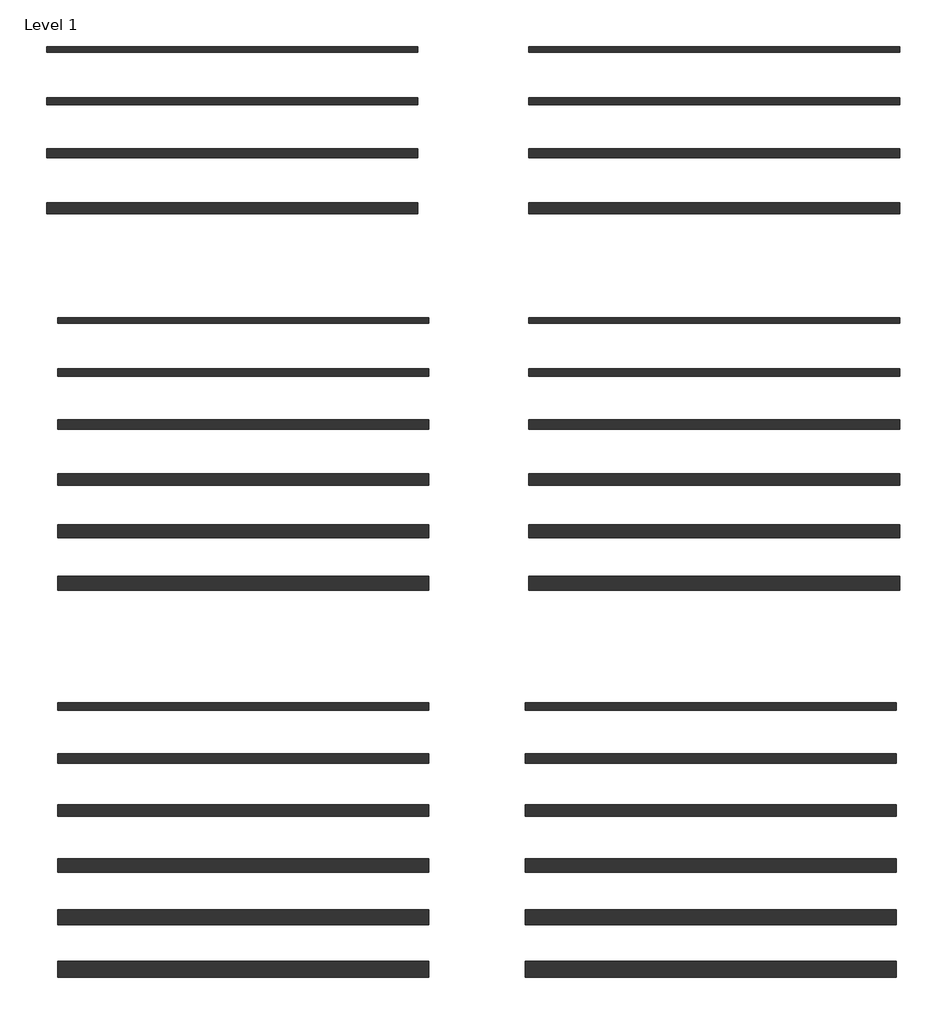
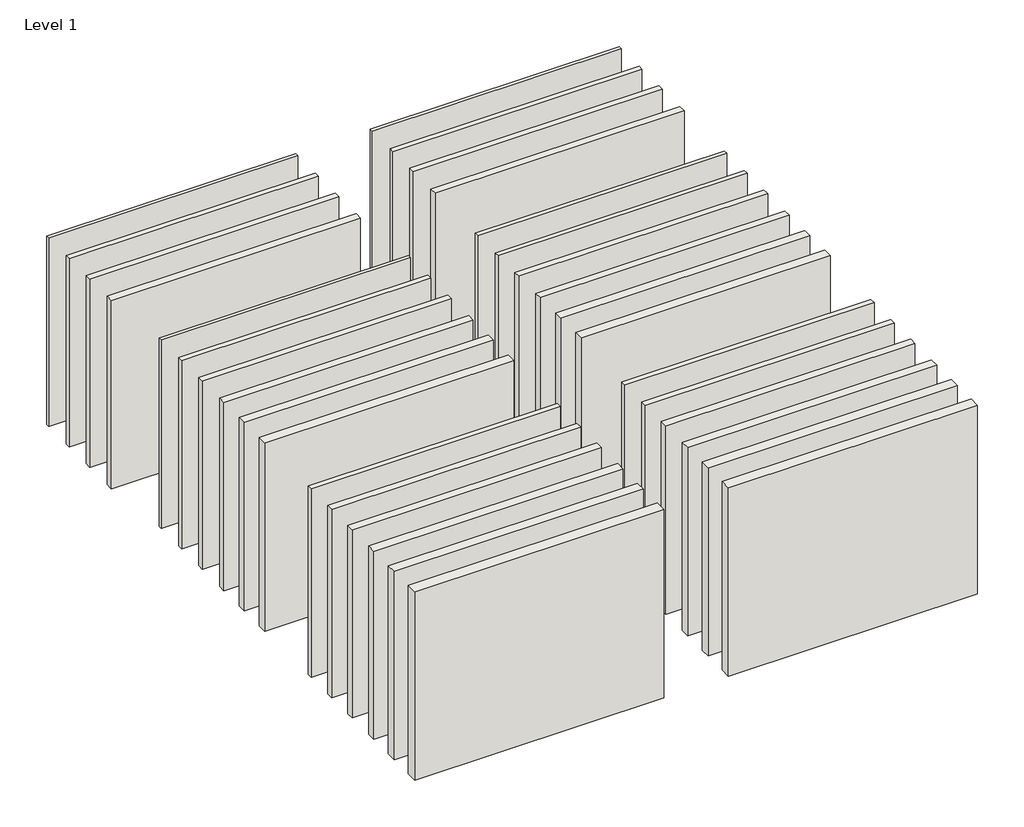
# One storey: 32 walls.
"""IFC4 building model written with IfcOpenShell, lengths in millimetres."""

import ifcopenshell
import ifcopenshell.guid

model = None  # the IFC model being written
_history = None  # IfcOwnerHistory: only IFC2X3 demands one
_inside = {}  # id of a spatial element -> (the spatial element, [elements in it])
_under = {}  # id of a project, library or spatial element -> (it, [spatial elements below it])
_declared = {}  # id of a project -> (the project, [libraries it declares])
_typed = {}  # id of a type object -> (the type object, [elements of that type])
_made_of = {}  # id of a material, layer set ... -> (it, [elements and type objects made of it])


def new_model(schema):
    """Start an empty IFC model of exactly this schema.

    Asked for "IFC4X3", IfcOpenShell would pick the latest addendum, in which some entities
    have other attributes; the version numbers below select the first issue.
    IFC2X3 requires an IfcOwnerHistory on every rooted entity: one is made here for all.
    """
    global model, _history
    if schema == "IFC4X3":
        model = ifcopenshell.file(schema_version=(4, 3, 0, 0))
    else:
        model = ifcopenshell.file(schema=schema)
    _inside.clear()
    _under.clear()
    _declared.clear()
    _typed.clear()
    _made_of.clear()
    _history = None
    if model.schema == "IFC2X3":
        org = make("IfcOrganization", Name="unknown")
        user = make(
            "IfcPersonAndOrganization",
            ThePerson=make("IfcPerson", FamilyName="unknown"),
            TheOrganization=org,
        )
        app = make(
            "IfcApplication",
            ApplicationDeveloper=org,
            Version="unknown",
            ApplicationFullName="unknown",
            ApplicationIdentifier="unknown",
        )
        _history = make(
            "IfcOwnerHistory",
            OwningUser=user,
            OwningApplication=app,
            ChangeAction="ADDED",
            CreationDate=0,
        )
    return model


def make(cls, **values):
    """One entity of the class cls with the attributes given. An attribute that is None is left unset."""
    return model.create_entity(
        cls, **{name: value for name, value in values.items() if value is not None}
    )


def rooted(cls, **values):
    """An entity with a GlobalId (a new one), such as an element, a storey or a relation."""
    return make(cls, GlobalId=ifcopenshell.guid.new(), OwnerHistory=_history, **values)


def si_unit(unit_type, name, prefix=None):
    """IfcSIUnit, for example si_unit("LENGTHUNIT", "METRE", prefix="MILLI")."""
    return make("IfcSIUnit", UnitType=unit_type, Prefix=prefix, Name=name)


def assignment(units):
    """IfcUnitAssignment: the units of a project."""
    return None if units is None else make("IfcUnitAssignment", Units=units)


def point(xyz):
    """IfcCartesianPoint."""
    return None if xyz is None else make("IfcCartesianPoint", Coordinates=xyz)


def direction(xyz):
    """IfcDirection."""
    return None if xyz is None else make("IfcDirection", DirectionRatios=xyz)


def frame(location, z_axis=None, x_axis=None):
    """IfcAxis2Placement3D, a coordinate frame: its origin and axes. An axis left out is left unset."""
    return make(
        "IfcAxis2Placement3D",
        Location=point(location),
        Axis=direction(z_axis),
        RefDirection=direction(x_axis),
    )


def origin():
    """The frame at (0, 0, 0) with its axes left unset."""
    return frame((0.0, 0.0, 0.0))


def origin_with_axes():
    """The frame at (0, 0, 0) with the z axis (0, 0, 1) and the x axis (1, 0, 0) written out."""
    return frame((0.0, 0.0, 0.0), z_axis=(0.0, 0.0, 1.0), x_axis=(1.0, 0.0, 0.0))


def place(relative_to, where):
    """IfcLocalPlacement: puts the frame where relative to a parent placement (None: the world)."""
    return make(
        "IfcLocalPlacement", PlacementRelTo=relative_to, RelativePlacement=where
    )


def context(
    kind, dimensions, precision=None, world=None, true_north=None, identifier=None
):
    """IfcGeometricRepresentationContext, for example the 3D "Model" context."""
    return make(
        "IfcGeometricRepresentationContext",
        ContextIdentifier=identifier,
        ContextType=kind,
        CoordinateSpaceDimension=dimensions,
        Precision=precision,
        WorldCoordinateSystem=world,
        TrueNorth=true_north,
    )


def project(units=None, contexts=None):
    """IfcProject with its units and contexts."""
    return rooted(
        "IfcProject",
        Name="project",
        RepresentationContexts=contexts,
        UnitsInContext=assignment(units),
    )


def spatial(cls, under=None, at=None, **own):
    """A site, building, storey or space (cls), placed at a placement, below another one or the project."""
    s = rooted(cls, ObjectPlacement=at, **own)
    if under is not None:
        _under.setdefault(under.id(), (under, []))[1].append(s)
    return s


def polyline(points):
    """IfcPolyline through the points."""
    return make("IfcPolyline", Points=[point(p) for p in points])


def outline(outer, holes=None, kind="AREA"):
    """IfcArbitraryClosedProfileDef: a profile drawn as a closed curve; with holes, ...WithVoids."""
    if holes is None:
        return make("IfcArbitraryClosedProfileDef", ProfileType=kind, OuterCurve=outer)
    return make(
        "IfcArbitraryProfileDefWithVoids",
        ProfileType=kind,
        OuterCurve=outer,
        InnerCurves=holes,
    )


def extrude(swept, where, along, depth):
    """IfcExtrudedAreaSolid: the profile swept, set in the frame where, extruded along a direction by depth."""
    return make(
        "IfcExtrudedAreaSolid",
        SweptArea=swept,
        Position=where,
        ExtrudedDirection=direction(along),
        Depth=depth,
    )


def shape(context_of_items, identifier, shape_type, items):
    """IfcShapeRepresentation: the items that make up one representation, for example the "Body"."""
    return make(
        "IfcShapeRepresentation",
        ContextOfItems=context_of_items,
        RepresentationIdentifier=identifier,
        RepresentationType=shape_type,
        Items=items,
    )


def made_of(thing, what):
    """Note that an element or type object is made of a material, layer set ...; save() writes the relation."""
    if what is not None:
        _made_of.setdefault(what.id(), (what, []))[1].append(thing)
    return thing


def element(
    cls,
    number,
    at=None,
    inside=None,
    cuts=None,
    type_object=None,
    material=None,
    context=None,
    identifier="Body",
    shape_type=None,
    held_by="IfcProductDefinitionShape",
    body=None,
    shapes=None,
    **own,
):
    """One element of the class cls, such as IfcWall. Its Tag is "e" and its number.

    at: its placement. inside: the storey or other place that contains it. cuts: it is an
    opening in that element (IfcRelVoidsElement). A single representation is given by context,
    identifier, shape_type and body (its items); several are given by shapes. held_by: the class
    of the entity that holds the representations. save() writes the other relations.
    """
    e = rooted(cls, Tag="e%d" % number, ObjectPlacement=at, **own)
    if body is not None:
        shapes = [shape(context, identifier, shape_type, body)]
    if shapes is not None:
        e.Representation = make(held_by, Representations=shapes)
    if inside is not None:
        _inside.setdefault(inside.id(), (inside, []))[1].append(e)
    if cuts is not None:
        rooted(
            "IfcRelVoidsElement", RelatingBuildingElement=cuts, RelatedOpeningElement=e
        )
    if type_object is not None:
        _typed.setdefault(type_object.id(), (type_object, []))[1].append(e)
    return made_of(e, material)


def aggregate(whole, parts):
    """IfcRelAggregates: a whole, such as a stair, and the parts it consists of."""
    return rooted("IfcRelAggregates", RelatingObject=whole, RelatedObjects=parts)


def save(model, path):
    """Write the relations noted so far, then the file.

    IfcRelAggregates (storeys below a building ...), IfcRelContainedInSpatialStructure (elements
    in a storey), IfcRelDefinesByType, IfcRelAssociatesMaterial and IfcRelDeclares: one each for
    every whole, place, type object, material and project.
    """
    for whole, parts in _under.values():
        aggregate(whole, parts)
    for where, things in _inside.values():
        rooted(
            "IfcRelContainedInSpatialStructure",
            RelatedElements=things,
            RelatingStructure=where,
        )
    for kind, things in _typed.values():
        rooted("IfcRelDefinesByType", RelatedObjects=things, RelatingType=kind)
    for what, things in _made_of.values():
        rooted("IfcRelAssociatesMaterial", RelatedObjects=things, RelatingMaterial=what)
    for by, libraries in _declared.values():
        rooted("IfcRelDeclares", RelatingContext=by, RelatedDefinitions=libraries)
    model.write(path)


model = new_model("IFC4")

# Units and contexts
model_context = context("Model", 3, world=origin())
ifc_project = project(units=[si_unit("LENGTHUNIT", "METRE", prefix="MILLI")], contexts=[model_context])

# Site, building, storey
site = spatial("IfcSite", under=ifc_project)
building = spatial("IfcBuilding", under=site)
storey = spatial("IfcBuildingStorey", under=building, Name="Level 1", Elevation=0.0)

# Walls
placement = place(None, origin())
element("IfcWall", 1, ObjectType="Knauf Danogips E MR 450 45/45 -/FF M0", at=placement, inside=storey, context=model_context, shape_type="SweptSolid", body=[
    extrude(outline(polyline([(2218.7204375, 1076.8559755), (-2781.2795625, 1076.8559755), (-2781.2795625, 1151.8559755), (2218.7204375, 1151.8559755), (2218.7204375, 1076.8559755)])), origin_with_axes(), (0.0, 0.0, 1.0), 4000.0),
])
element("IfcWall", 2, ObjectType="Knauf Danogips E MR 450 70/70 -/FF M0", at=placement, inside=storey, context=model_context, shape_type="SweptSolid", body=[
    extrude(outline(polyline([(2218.7204375, 364.3559755), (-2781.2795625, 364.3559755), (-2781.2795625, 464.3559755), (2218.7204375, 464.3559755), (2218.7204375, 364.3559755)])), origin_with_axes(), (0.0, 0.0, 1.0), 4000.0),
])
element("IfcWall", 3, ObjectType="Knauf Danogips E MR 450 95/95 -/FF M0", at=placement, inside=storey, context=model_context, shape_type="SweptSolid", body=[
    extrude(outline(polyline([(2218.7204375, -348.1440245), (-2781.2795625, -348.1440245), (-2781.2795625, -223.1440245), (2218.7204375, -223.1440245), (2218.7204375, -348.1440245)])), origin_with_axes(), (0.0, 0.0, 1.0), 4000.0),
])
element("IfcWall", 4, ObjectType="Knauf Danogips E MR 450 120/120 -/FF M0", at=placement, inside=storey, context=model_context, shape_type="SweptSolid", body=[
    extrude(outline(polyline([(2218.7204375, -1100.6440245), (-2781.2795625, -1100.6440245), (-2781.2795625, -950.6440245), (2218.7204375, -950.6440245), (2218.7204375, -1100.6440245)])), origin_with_axes(), (0.0, 0.0, 1.0), 4000.0),
])
element("IfcWall", 5, ObjectType="Knauf Danogips E MR 450 45/45 F/F M0", at=placement, inside=storey, context=model_context, shape_type="SweptSolid", body=[
    extrude(outline(polyline([(2367.188574, -2579.5869477), (-2632.811426, -2579.5869477), (-2632.811426, -2504.5869477), (2367.188574, -2504.5869477), (2367.188574, -2579.5869477)])), origin_with_axes(), (0.0, 0.0, 1.0), 4000.0),
])
element("IfcWall", 6, ObjectType="Knauf Danogips E MR 450 70/70 F/F M0", at=placement, inside=storey, context=model_context, shape_type="SweptSolid", body=[
    extrude(outline(polyline([(2367.188574, -3292.0869477), (-2632.811426, -3292.0869477), (-2632.811426, -3192.0869477), (2367.188574, -3192.0869477), (2367.188574, -3292.0869477)])), origin_with_axes(), (0.0, 0.0, 1.0), 4000.0),
])
element("IfcWall", 7, ObjectType="Knauf Danogips E MR 450 95/95 F/F M0", at=placement, inside=storey, context=model_context, shape_type="SweptSolid", body=[
    extrude(outline(polyline([(2367.188574, -4004.5869477), (-2632.811426, -4004.5869477), (-2632.811426, -3879.5869477), (2367.188574, -3879.5869477), (2367.188574, -4004.5869477)])), origin_with_axes(), (0.0, 0.0, 1.0), 4000.0),
])
element("IfcWall", 8, ObjectType="Knauf Danogips E MR 450 120/120 F/F M0", at=placement, inside=storey, context=model_context, shape_type="SweptSolid", body=[
    extrude(outline(polyline([(2367.188574, -4757.0869477), (-2632.811426, -4757.0869477), (-2632.811426, -4607.0869477), (2367.188574, -4607.0869477), (2367.188574, -4757.0869477)])), origin_with_axes(), (0.0, 0.0, 1.0), 4000.0),
])
element("IfcWall", 9, ObjectType="Knauf Danogips E MR 450 145/145 F/F M0", at=placement, inside=storey, context=model_context, shape_type="SweptSolid", body=[
    extrude(outline(polyline([(2367.188574, -5469.5869477), (-2632.811426, -5469.5869477), (-2632.811426, -5294.5869477), (2367.188574, -5294.5869477), (2367.188574, -5469.5869477)])), origin_with_axes(), (0.0, 0.0, 1.0), 4000.0),
])
element("IfcWall", 10, ObjectType="Knauf Danogips E MR 450 160/160 F/F M0", at=placement, inside=storey, context=model_context, shape_type="SweptSolid", body=[
    extrude(outline(polyline([(2367.188574, -6177.0869477), (-2632.811426, -6177.0869477), (-2632.811426, -5987.0869477), (2367.188574, -5987.0869477), (2367.188574, -6177.0869477)])), origin_with_axes(), (0.0, 0.0, 1.0), 4000.0),
])
element("IfcWall", 11, ObjectType="Knauf Danogips E MR 450 45/45 -/FF M45", at=placement, inside=storey, context=model_context, shape_type="SweptSolid", body=[
    extrude(outline(polyline([(8718.7204375, 1076.8559755), (3718.7204375, 1076.8559755), (3718.7204375, 1151.8559755), (8718.7204375, 1151.8559755), (8718.7204375, 1076.8559755)])), origin_with_axes(), (0.0, 0.0, 1.0), 4000.0),
])
element("IfcWall", 12, ObjectType="Knauf Danogips E MR 450 70/70 -/FF M45", at=placement, inside=storey, context=model_context, shape_type="SweptSolid", body=[
    extrude(outline(polyline([(8718.7204375, 364.3559755), (3718.7204375, 364.3559755), (3718.7204375, 464.3559755), (8718.7204375, 464.3559755), (8718.7204375, 364.3559755)])), origin_with_axes(), (0.0, 0.0, 1.0), 4000.0),
])
element("IfcWall", 13, ObjectType="Knauf Danogips E MR 450 95/95 -/FF M45", at=placement, inside=storey, context=model_context, shape_type="SweptSolid", body=[
    extrude(outline(polyline([(8718.7204375, -348.1440245), (3718.7204375, -348.1440245), (3718.7204375, -223.1440245), (8718.7204375, -223.1440245), (8718.7204375, -348.1440245)])), origin_with_axes(), (0.0, 0.0, 1.0), 4000.0),
])
element("IfcWall", 14, ObjectType="Knauf Danogips E MR 450 120/120 -/FF M45", at=placement, inside=storey, context=model_context, shape_type="SweptSolid", body=[
    extrude(outline(polyline([(8718.7204375, -1100.6440245), (3718.7204375, -1100.6440245), (3718.7204375, -950.6440245), (8718.7204375, -950.6440245), (8718.7204375, -1100.6440245)])), origin_with_axes(), (0.0, 0.0, 1.0), 4000.0),
])
element("IfcWall", 15, ObjectType="Knauf Danogips E MR 450 45/45 F/F M45", at=placement, inside=storey, context=model_context, shape_type="SweptSolid", body=[
    extrude(outline(polyline([(8718.7204375, -2579.5869477), (3718.7204375, -2579.5869477), (3718.7204375, -2504.5869477), (8718.7204375, -2504.5869477), (8718.7204375, -2579.5869477)])), origin_with_axes(), (0.0, 0.0, 1.0), 4000.0),
])
element("IfcWall", 16, ObjectType="Knauf Danogips E MR 450 70/70 F/F M45", at=placement, inside=storey, context=model_context, shape_type="SweptSolid", body=[
    extrude(outline(polyline([(8718.7204375, -3292.0869477), (3718.7204375, -3292.0869477), (3718.7204375, -3192.0869477), (8718.7204375, -3192.0869477), (8718.7204375, -3292.0869477)])), origin_with_axes(), (0.0, 0.0, 1.0), 4000.0),
])
element("IfcWall", 17, ObjectType="Knauf Danogips E MR 450 95/95 F/F M45", at=placement, inside=storey, context=model_context, shape_type="SweptSolid", body=[
    extrude(outline(polyline([(8718.7204375, -4004.5869477), (3718.7204375, -4004.5869477), (3718.7204375, -3879.5869477), (8718.7204375, -3879.5869477), (8718.7204375, -4004.5869477)])), origin_with_axes(), (0.0, 0.0, 1.0), 4000.0),
])
element("IfcWall", 18, ObjectType="Knauf Danogips E MR 450 120/120 F/F M45", at=placement, inside=storey, context=model_context, shape_type="SweptSolid", body=[
    extrude(outline(polyline([(8718.7204375, -4757.0869477), (3718.7204375, -4757.0869477), (3718.7204375, -4607.0869477), (8718.7204375, -4607.0869477), (8718.7204375, -4757.0869477)])), origin_with_axes(), (0.0, 0.0, 1.0), 4000.0),
])
element("IfcWall", 19, ObjectType="Knauf Danogips E MR 450 145/145 F/F M45", at=placement, inside=storey, context=model_context, shape_type="SweptSolid", body=[
    extrude(outline(polyline([(8718.7204375, -5469.5869477), (3718.7204375, -5469.5869477), (3718.7204375, -5294.5869477), (8718.7204375, -5294.5869477), (8718.7204375, -5469.5869477)])), origin_with_axes(), (0.0, 0.0, 1.0), 4000.0),
])
element("IfcWall", 20, ObjectType="Knauf Danogips E MR 450 160/160 F/F M45", at=placement, inside=storey, context=model_context, shape_type="SweptSolid", body=[
    extrude(outline(polyline([(8718.7204375, -6177.0869477), (3718.7204375, -6177.0869477), (3718.7204375, -5987.0869477), (8718.7204375, -5987.0869477), (8718.7204375, -6177.0869477)])), origin_with_axes(), (0.0, 0.0, 1.0), 4000.0),
])
element("IfcWall", 21, ObjectType="Knauf Danogips E MR 450 45/45 FF/FF M0", at=placement, inside=storey, context=model_context, shape_type="SweptSolid", body=[
    extrude(outline(polyline([(2367.188574, -7794.5869477), (-2632.811426, -7794.5869477), (-2632.811426, -7689.5869477), (2367.188574, -7689.5869477), (2367.188574, -7794.5869477)])), origin_with_axes(), (0.0, 0.0, 1.0), 4000.0),
])
element("IfcWall", 22, ObjectType="Knauf Danogips E MR 450 70/70 FF/FF M0", at=placement, inside=storey, context=model_context, shape_type="SweptSolid", body=[
    extrude(outline(polyline([(2367.188574, -8507.0869477), (-2632.811426, -8507.0869477), (-2632.811426, -8377.0869477), (2367.188574, -8377.0869477), (2367.188574, -8507.0869477)])), origin_with_axes(), (0.0, 0.0, 1.0), 4000.0),
])
element("IfcWall", 23, ObjectType="Knauf Danogips E MR 450 95/95 FF/FF M0", at=placement, inside=storey, context=model_context, shape_type="SweptSolid", body=[
    extrude(outline(polyline([(2367.188574, -9219.5869477), (-2632.811426, -9219.5869477), (-2632.811426, -9064.5869477), (2367.188574, -9064.5869477), (2367.188574, -9219.5869477)])), origin_with_axes(), (0.0, 0.0, 1.0), 4000.0),
])
element("IfcWall", 24, ObjectType="Knauf Danogips E MR 450 120/120 FF/FF M0", at=placement, inside=storey, context=model_context, shape_type="SweptSolid", body=[
    extrude(outline(polyline([(2367.188574, -9972.0869477), (-2632.811426, -9972.0869477), (-2632.811426, -9792.0869477), (2367.188574, -9792.0869477), (2367.188574, -9972.0869477)])), origin_with_axes(), (0.0, 0.0, 1.0), 4000.0),
])
element("IfcWall", 25, ObjectType="Knauf Danogips E MR 450 145/145 FF/FF M0", at=placement, inside=storey, context=model_context, shape_type="SweptSolid", body=[
    extrude(outline(polyline([(2367.188574, -10684.5869477), (-2632.811426, -10684.5869477), (-2632.811426, -10479.5869477), (2367.188574, -10479.5869477), (2367.188574, -10684.5869477)])), origin_with_axes(), (0.0, 0.0, 1.0), 4000.0),
])
element("IfcWall", 26, ObjectType="Knauf Danogips E MR 450 160/160 FF/FF M0", at=placement, inside=storey, context=model_context, shape_type="SweptSolid", body=[
    extrude(outline(polyline([(2367.188574, -11392.0869477), (-2632.811426, -11392.0869477), (-2632.811426, -11172.0869477), (2367.188574, -11172.0869477), (2367.188574, -11392.0869477)])), origin_with_axes(), (0.0, 0.0, 1.0), 4000.0),
])
element("IfcWall", 27, ObjectType="Knauf Danogips E MR 450 45/45 FF/FF M45", at=placement, inside=storey, context=model_context, shape_type="SweptSolid", body=[
    extrude(outline(polyline([(8667.188574, -7794.5869477), (3667.188574, -7794.5869477), (3667.188574, -7689.5869477), (8667.188574, -7689.5869477), (8667.188574, -7794.5869477)])), origin_with_axes(), (0.0, 0.0, 1.0), 4000.0),
])
element("IfcWall", 28, ObjectType="Knauf Danogips E MR 450 70/70 FF/FF M45", at=placement, inside=storey, context=model_context, shape_type="SweptSolid", body=[
    extrude(outline(polyline([(8667.188574, -8507.0869477), (3667.188574, -8507.0869477), (3667.188574, -8377.0869477), (8667.188574, -8377.0869477), (8667.188574, -8507.0869477)])), origin_with_axes(), (0.0, 0.0, 1.0), 4000.0),
])
element("IfcWall", 29, ObjectType="Knauf Danogips E MR 450 95/95 FF/FF M45", at=placement, inside=storey, context=model_context, shape_type="SweptSolid", body=[
    extrude(outline(polyline([(8667.188574, -9219.5869477), (3667.188574, -9219.5869477), (3667.188574, -9064.5869477), (8667.188574, -9064.5869477), (8667.188574, -9219.5869477)])), origin_with_axes(), (0.0, 0.0, 1.0), 4000.0),
])
element("IfcWall", 30, ObjectType="Knauf Danogips E MR 450 120/120 FF/FF M45", at=placement, inside=storey, context=model_context, shape_type="SweptSolid", body=[
    extrude(outline(polyline([(8667.188574, -9972.0869477), (3667.188574, -9972.0869477), (3667.188574, -9792.0869477), (8667.188574, -9792.0869477), (8667.188574, -9972.0869477)])), origin_with_axes(), (0.0, 0.0, 1.0), 4000.0),
])
element("IfcWall", 31, ObjectType="Knauf Danogips E MR 450 145/145 FF/FF M45", at=placement, inside=storey, context=model_context, shape_type="SweptSolid", body=[
    extrude(outline(polyline([(8667.188574, -10684.5869477), (3667.188574, -10684.5869477), (3667.188574, -10479.5869477), (8667.188574, -10479.5869477), (8667.188574, -10684.5869477)])), origin_with_axes(), (0.0, 0.0, 1.0), 4000.0),
])
element("IfcWall", 32, ObjectType="Knauf Danogips E MR 450 160/160 FF/FF M45", at=placement, inside=storey, context=model_context, shape_type="SweptSolid", body=[
    extrude(outline(polyline([(8667.188574, -11392.0869477), (3667.188574, -11392.0869477), (3667.188574, -11172.0869477), (8667.188574, -11172.0869477), (8667.188574, -11392.0869477)])), origin_with_axes(), (0.0, 0.0, 1.0), 4000.0),
])

save(model, "model.ifc")
